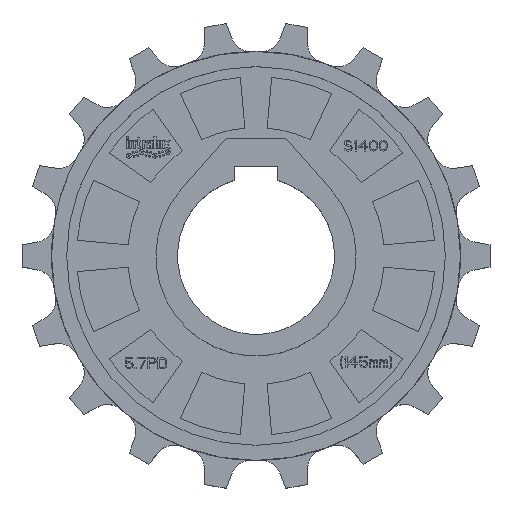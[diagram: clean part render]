
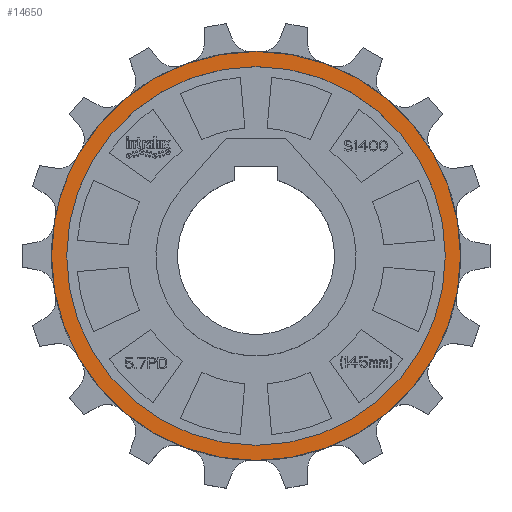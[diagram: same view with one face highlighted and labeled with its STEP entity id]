
A CAD part, top view. The second image highlights one B-rep face of the part: STEP entity #14650.
In plain terms, the highlighted planar face has unit normal (0, 0, 1).
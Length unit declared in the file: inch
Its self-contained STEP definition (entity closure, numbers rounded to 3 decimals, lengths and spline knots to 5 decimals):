
#1=CARTESIAN_POINT('',(0.,0.,0.4125));
#2=DIRECTION('',(0.,0.,1.));
#3=DIRECTION('',(1.,0.,0.));
#4=AXIS2_PLACEMENT_3D('',#1,#2,#3);
#6=CARTESIAN_POINT('',(0.,0.,0.4125));
#7=DIRECTION('',(0.,0.,1.));
#8=DIRECTION('',(-1.,0.,0.));
#9=AXIS2_PLACEMENT_3D('',#6,#7,#8);
#164=CARTESIAN_POINT('',(0.,0.,0.4125));
#165=DIRECTION('',(0.,0.,1.));
#166=DIRECTION('',(-0.985,0.174,0.));
#167=AXIS2_PLACEMENT_3D('',#164,#165,#166);
#388=CARTESIAN_POINT('',(0.,0.,0.4125));
#389=DIRECTION('',(0.,0.,1.));
#390=DIRECTION('',(-0.866,0.5,0.));
#391=AXIS2_PLACEMENT_3D('',#388,#389,#390);
#11189=CARTESIAN_POINT('',(2.374,0.,0.4125));
#11190=CARTESIAN_POINT('',(-2.374,0.,0.4125));
#11191=VERTEX_POINT('',#11189);
#11192=VERTEX_POINT('',#11190);
#13941=CARTESIAN_POINT('',(-2.22049,1.282,0.4125));
#13942=CARTESIAN_POINT('',(-2.52504,0.44523,0.4125));
#13943=VERTEX_POINT('',#13941);
#13944=VERTEX_POINT('',#13942);
#14633=CARTESIAN_POINT('',(0.,0.,0.4125));
#14634=DIRECTION('',(0.,0.,1.));
#14635=DIRECTION('',(1.,0.,0.));
#14636=AXIS2_PLACEMENT_3D('',#14633,#14634,#14635);
#14637=PLANE('',#14636);
#14639=ORIENTED_EDGE('',*,*,#14638,.F.);
#14641=ORIENTED_EDGE('',*,*,#14640,.F.);
#14642=EDGE_LOOP('',(#14639,#14641));
#14643=FACE_OUTER_BOUND('',#14642,.F.);
#14645=ORIENTED_EDGE('',*,*,#14644,.T.);
#14647=ORIENTED_EDGE('',*,*,#14646,.T.);
#14648=EDGE_LOOP('',(#14645,#14647));
#14649=FACE_BOUND('',#14648,.F.);
#14650=ADVANCED_FACE('',(#14643,#14649),#14637,.T.);
#5=CIRCLE('',#4,2.374);
#10=CIRCLE('',#9,2.374);
#168=CIRCLE('',#167,2.564);
#392=CIRCLE('',#391,2.564);
#14638=EDGE_CURVE('',#13944,#13943,#168,.T.);
#14640=EDGE_CURVE('',#13943,#13944,#392,.T.);
#14644=EDGE_CURVE('',#11191,#11192,#5,.T.);
#14646=EDGE_CURVE('',#11192,#11191,#10,.T.);
